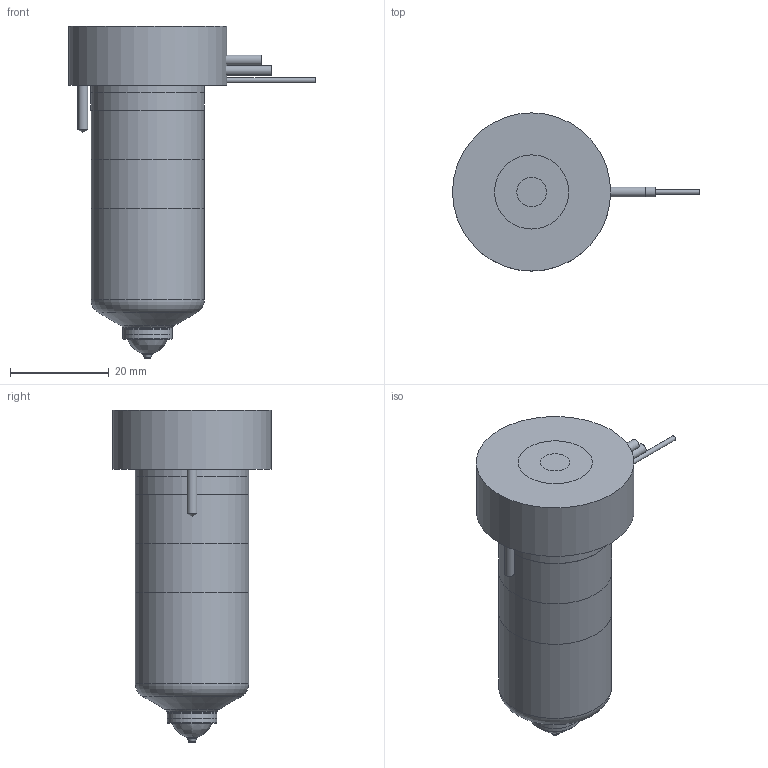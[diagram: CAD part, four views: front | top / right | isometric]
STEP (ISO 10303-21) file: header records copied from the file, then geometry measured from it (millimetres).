
FILE_DESCRIPTION(/* description */ (''),/* implementation_level */ '2;1');
FILE_NAME(/* name */ 'MXOV13055_200C_b',/* time_stamp */ '2007-01-18T09:49:33+13:00',/* author */ (''),/* organization */ (''),/* preprocessor_version */ 'ST-DEVELOPER v9',/* originating_system */ 'UGS - NX 4.0',/* authorisation */ '');
FILE_SCHEMA (('CONFIG_CONTROL_DESIGN'));
Length unit declared in the file: millimetre
Products named in the file (1): MXOV13055_200C_b
Bounding box: 49.95 x 32 x 67.15 mm (x, y, z)
Volume: 53126.1 mm3; surface area: 13892.7 mm2
Topology: 7 solids, 7 shells, 90 faces, 170 edges, 108 vertices
Faces by surface type: plane 37, cylinder 29, cone 13, torus 8, bspline 3
Full cylindrical faces by diameter (mm): 1 x3, 2 x5, 6 x1, 6.4 x1, 6.5 x1, 9.61 x1, 10.01 x2, 12.6 x1, 18.8 x1, 22.9 x2, 23 x2, 32 x1
Entity records: 2168 total; most frequent: CARTESIAN_POINT 462, DIRECTION 366, ORIENTED_EDGE 236, AXIS2_PLACEMENT_3D 170, EDGE_LOOP 146, EDGE_CURVE 118, VERTEX_POINT 99, ADVANCED_FACE 90
